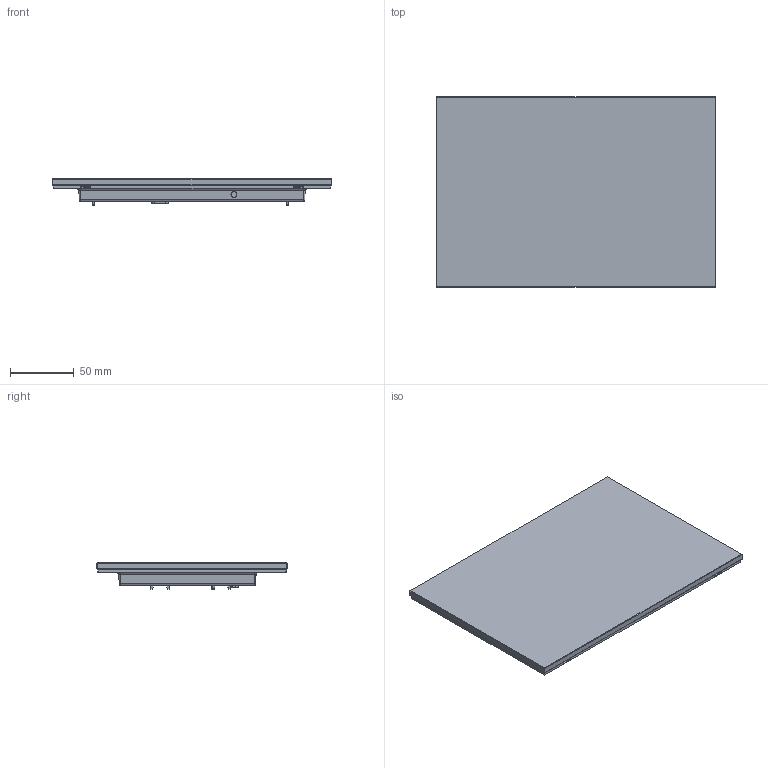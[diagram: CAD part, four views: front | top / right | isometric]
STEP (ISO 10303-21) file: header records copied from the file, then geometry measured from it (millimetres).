
FILE_DESCRIPTION((''),'2;1');
FILE_NAME('SP609_100_00_ASM','2016-01-11T',('MSchlueter'),('NET'),'PRO/ENGINEER BY PARAMETRIC TECHNOLOGY CORPORATION, 2014090','PRO/ENGINEER BY PARAMETRIC TECHNOLOGY CORPORATION, 2014090','');
FILE_SCHEMA(('CONFIG_CONTROL_DESIGN'));
Products named in the file (3): SP600_100_00; SP600_101_00; SP609_100_00_ASM
Assembly tree (2 placements, depth 2):
  SP609_100_00_ASM
    SP600_100_00
    SP600_101_00
Bounding box: 220 x 150 x 20.5 mm (x, y, z)
Volume: 230251.5 mm3; surface area: 139696.5 mm2
Topology: 2 solids, 2 shells, 1643 faces, 4070 edges, 2465 vertices
Faces by surface type: plane 716, cylinder 474, bspline 306, sphere 68, torus 50, cone 29
Entity records: 62929 total; most frequent: CARTESIAN_POINT 25878, ORIENTED_EDGE 8140, DIRECTION 6761, EDGE_CURVE 4070, VERTEX_POINT 2465, VECTOR 2459, LINE 2459, AXIS2_PLACEMENT_3D 2151
